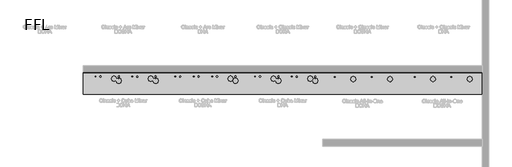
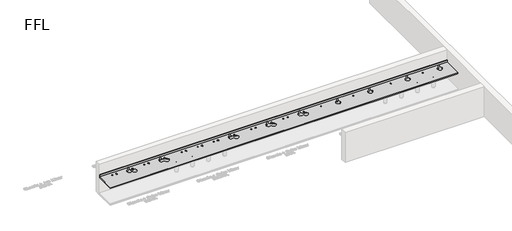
# One storey, part 2 of 13: 1 furniture element.
"""IFC4 building model written with IfcOpenShell, lengths in millimetres."""

from ifc_helpers import new_model, si_unit, frame, origin, place, context, project, spatial, polyline, circle_curve, element, save
from ifc_brep_helpers import plane_surface, revolved_surface, advanced_brep

model = new_model("IFC4")

# Units and contexts
model_context = context("Model", 3, world=origin())
ifc_project = project(units=[si_unit("LENGTHUNIT", "METRE", prefix="MILLI")], contexts=[model_context])

# Site, building, storey
site = spatial("IfcSite", under=ifc_project)
building = spatial("IfcBuilding", under=site)
storey = spatial("IfcBuildingStorey", under=building, Name="FFL", Elevation=0.0)

# Furniture
placement = place(None, origin())
element("IfcFurniture", 1, ObjectType="Counter Top : 900mm Depth", at=placement, inside=storey, context=model_context, shape_type="AdvancedBrep", body=[
    advanced_brep(
    [(-3719.7352929, 948.2393304, 900.0), (12530.2647071, 948.2393304, 900.0), (12530.2647071, 1829.1893304, 900.0), (-3719.7352929, 1829.1893304, 900.0), (3262.7647071, 1678.2393304, 900.0), (3297.7647071, 1678.2393304, 900.0), (4012.7647071, 1678.2393304, 900.0), (4047.7647071, 1678.2393304, 900.0), (4762.7647071, 1678.2393304, 900.0), (4797.7647071, 1678.2393304, 900.0), (5512.7647071, 1678.2393304, 900.0), (5547.7647071, 1678.2393304, 900.0), (4030.2647071, 1639.8212903, 900.0), (4030.2647071, 1503.4212903, 900.0), (5530.2647071, 1639.8212903, 900.0), (5530.2647071, 1503.4212903, 900.0), (-3237.2352929, 1678.2393304, 900.0), (-3202.2352929, 1678.2393304, 900.0), (-2487.2352929, 1678.2393304, 900.0), (-2452.2352929, 1678.2393304, 900.0), (-1737.2352929, 1678.2393304, 900.0), (-1702.2352929, 1678.2393304, 900.0), (-987.2352929, 1678.2393304, 900.0), (-952.2352929, 1678.2393304, 900.0), (-2469.7352929, 1639.8212903, 900.0), (-2469.7352929, 1503.4212903, 900.0), (-969.7352929, 1639.8212903, 900.0), (-969.7352929, 1503.4212903, 900.0), (-3043.7352929, 1678.2393304, 900.0), (-2995.7352929, 1678.2393304, 900.0), (-2293.7352929, 1678.2393304, 900.0), (-2245.7352929, 1678.2393304, 900.0), (-1543.7352929, 1678.2393304, 900.0), (-1495.7352929, 1678.2393304, 900.0), (-793.7352929, 1678.2393304, 900.0), (-745.7352929, 1678.2393304, 900.0), (3456.2647071, 1678.2393304, 900.0), (3504.2647071, 1678.2393304, 900.0), (4206.2647071, 1678.2393304, 900.0), (4254.2647071, 1678.2393304, 900.0), (4956.2647071, 1678.2393304, 900.0), (5004.2647071, 1678.2393304, 900.0), (5706.2647071, 1678.2393304, 900.0), (5754.2647071, 1678.2393304, 900.0), (4162.0647071, 1506.2393304, 900.0), (4298.4647071, 1506.2393304, 900.0), (5662.0647071, 1506.2393304, 900.0), (5798.4647071, 1506.2393304, 900.0), (12.7647071, 1678.2393304, 900.0), (47.7647071, 1678.2393304, 900.0), (206.2647071, 1678.2393304, 900.0), (254.2647071, 1678.2393304, 900.0), (762.7647071, 1678.2393304, 900.0), (797.7647071, 1678.2393304, 900.0), (956.2647071, 1678.2393304, 900.0), (1004.2647071, 1678.2393304, 900.0), (1512.7647071, 1678.2393304, 900.0), (1547.7647071, 1678.2393304, 900.0), (1706.2647071, 1678.2393304, 900.0), (1754.2647071, 1678.2393304, 900.0), (2280.2647071, 1639.8212903, 900.0), (2280.2647071, 1503.4212903, 900.0), (2262.7647071, 1678.2393304, 900.0), (2297.7647071, 1678.2393304, 900.0), (2456.2647071, 1678.2393304, 900.0), (2504.2647071, 1678.2393304, 900.0), (2412.0647071, 1506.2393304, 900.0), (2548.4647071, 1506.2393304, 900.0), (-2337.9352929, 1506.2393304, 900.0), (-2201.5352929, 1506.2393304, 900.0), (-837.9352929, 1506.2393304, 900.0), (-701.5352929, 1506.2393304, 900.0), (6512.7647071, 1659.1893304, 900.0), (6547.7647071, 1659.1893304, 900.0), (7280.2647071, 1620.7712903, 900.0), (7280.2647071, 1484.3712903, 900.0), (7262.7647071, 1659.1893304, 900.0), (7297.7647071, 1659.1893304, 900.0), (8012.7647071, 1659.1893304, 900.0), (8047.7647071, 1659.1893304, 900.0), (8780.2647071, 1620.7712903, 900.0), (8780.2647071, 1484.3712903, 900.0), (8762.7647071, 1659.1893304, 900.0), (8797.7647071, 1659.1893304, 900.0), (9762.7647071, 1659.1893304, 900.0), (9797.7647071, 1659.1893304, 900.0), (10530.2647071, 1620.7712903, 900.0), (10530.2647071, 1484.3712903, 900.0), (10512.7647071, 1659.1893304, 900.0), (10547.7647071, 1659.1893304, 900.0), (11262.7647071, 1659.1893304, 900.0), (11297.7647071, 1659.1893304, 900.0), (12030.2647071, 1620.7712903, 900.0), (12030.2647071, 1484.3712903, 900.0), (12012.7647071, 1659.1893304, 900.0), (12047.7647071, 1659.1893304, 900.0), (12530.2647071, 1848.2393304, 860.0), (12530.2647071, 948.2393304, 860.0), (-3719.7352929, 948.2393304, 860.0), (-3719.7352929, 1848.2393304, 860.0), (3297.7647071, 1678.2393304, 860.0), (3262.7647071, 1678.2393304, 860.0), (4047.7647071, 1678.2393304, 860.0), (4012.7647071, 1678.2393304, 860.0), (4797.7647071, 1678.2393304, 860.0), (4762.7647071, 1678.2393304, 860.0), (5547.7647071, 1678.2393304, 860.0), (5512.7647071, 1678.2393304, 860.0), (4030.2647071, 1503.4212903, 860.0), (4030.2647071, 1639.8212903, 860.0), (5530.2647071, 1503.4212903, 860.0), (5530.2647071, 1639.8212903, 860.0), (-3202.2352929, 1678.2393304, 860.0), (-3237.2352929, 1678.2393304, 860.0), (-2452.2352929, 1678.2393304, 860.0), (-2487.2352929, 1678.2393304, 860.0), (-1702.2352929, 1678.2393304, 860.0), (-1737.2352929, 1678.2393304, 860.0), (-952.2352929, 1678.2393304, 860.0), (-987.2352929, 1678.2393304, 860.0), (-2469.7352929, 1503.4212903, 860.0), (-2469.7352929, 1639.8212903, 860.0), (-969.7352929, 1503.4212903, 860.0), (-969.7352929, 1639.8212903, 860.0), (-2995.7352929, 1678.2393304, 860.0), (-3043.7352929, 1678.2393304, 860.0), (-2245.7352929, 1678.2393304, 860.0), (-2293.7352929, 1678.2393304, 860.0), (-1495.7352929, 1678.2393304, 860.0), (-1543.7352929, 1678.2393304, 860.0), (-745.7352929, 1678.2393304, 860.0), (-793.7352929, 1678.2393304, 860.0), (3504.2647071, 1678.2393304, 860.0), (3456.2647071, 1678.2393304, 860.0), (4254.2647071, 1678.2393304, 860.0), (4206.2647071, 1678.2393304, 860.0), (5004.2647071, 1678.2393304, 860.0), (4956.2647071, 1678.2393304, 860.0), (5754.2647071, 1678.2393304, 860.0), (5706.2647071, 1678.2393304, 860.0), (4298.4647071, 1506.2393304, 860.0), (4162.0647071, 1506.2393304, 860.0), (5798.4647071, 1506.2393304, 860.0), (5662.0647071, 1506.2393304, 860.0), (47.7647071, 1678.2393304, 860.0), (12.7647071, 1678.2393304, 860.0), (254.2647071, 1678.2393304, 860.0), (206.2647071, 1678.2393304, 860.0), (797.7647071, 1678.2393304, 860.0), (762.7647071, 1678.2393304, 860.0), (1004.2647071, 1678.2393304, 860.0), (956.2647071, 1678.2393304, 860.0), (1547.7647071, 1678.2393304, 860.0), (1512.7647071, 1678.2393304, 860.0), (1754.2647071, 1678.2393304, 860.0), (1706.2647071, 1678.2393304, 860.0), (2280.2647071, 1503.4212903, 860.0), (2280.2647071, 1639.8212903, 860.0), (2297.7647071, 1678.2393304, 860.0), (2262.7647071, 1678.2393304, 860.0), (2504.2647071, 1678.2393304, 860.0), (2456.2647071, 1678.2393304, 860.0), (2548.4647071, 1506.2393304, 860.0), (2412.0647071, 1506.2393304, 860.0), (-2201.5352929, 1506.2393304, 860.0), (-2337.9352929, 1506.2393304, 860.0), (-701.5352929, 1506.2393304, 860.0), (-837.9352929, 1506.2393304, 860.0), (6547.7647071, 1659.1893304, 860.0), (6512.7647071, 1659.1893304, 860.0), (7280.2647071, 1484.3712903, 860.0), (7280.2647071, 1620.7712903, 860.0), (7297.7647071, 1659.1893304, 860.0), (7262.7647071, 1659.1893304, 860.0), (8047.7647071, 1659.1893304, 860.0), (8012.7647071, 1659.1893304, 860.0), (8780.2647071, 1484.3712903, 860.0), (8780.2647071, 1620.7712903, 860.0), (8797.7647071, 1659.1893304, 860.0), (8762.7647071, 1659.1893304, 860.0), (9797.7647071, 1659.1893304, 860.0), (9762.7647071, 1659.1893304, 860.0), (10530.2647071, 1484.3712903, 860.0), (10530.2647071, 1620.7712903, 860.0), (10547.7647071, 1659.1893304, 860.0), (10512.7647071, 1659.1893304, 860.0), (11297.7647071, 1659.1893304, 860.0), (11262.7647071, 1659.1893304, 860.0), (12030.2647071, 1484.3712903, 860.0), (12030.2647071, 1620.7712903, 860.0), (12047.7647071, 1659.1893304, 860.0), (12012.7647071, 1659.1893304, 860.0), (-3719.7352929, 1848.2393304, 1001.6), (12530.2647071, 1848.2393304, 1001.6), (-3719.7352929, 1829.1893304, 1001.6), (12530.2647071, 1829.1893304, 1001.6)],
    [
        (0, 1),
        (1, 2),
        (2, 3),
        (3, 0),
        (4, 5, circle_curve(frame((3280.2647071, 1678.2393304, 900.0), z_axis=(0.0, 0.0, -1.0), x_axis=(-1.0, 0.0, 0.0)), 17.5)),
        (5, 4, circle_curve(frame((3280.2647071, 1678.2393304, 900.0), z_axis=(0.0, 0.0, -1.0), x_axis=(-1.0, 0.0, 0.0)), 17.5)),
        (6, 7, circle_curve(frame((4030.2647071, 1678.2393304, 900.0), z_axis=(0.0, 0.0, -1.0), x_axis=(-1.0, 0.0, 0.0)), 17.5)),
        (7, 6, circle_curve(frame((4030.2647071, 1678.2393304, 900.0), z_axis=(0.0, 0.0, -1.0), x_axis=(-1.0, 0.0, 0.0)), 17.5)),
        (8, 9, circle_curve(frame((4780.2647071, 1678.2393304, 900.0), z_axis=(0.0, 0.0, -1.0), x_axis=(-1.0, 0.0, 0.0)), 17.5)),
        (9, 8, circle_curve(frame((4780.2647071, 1678.2393304, 900.0), z_axis=(0.0, 0.0, -1.0), x_axis=(-1.0, 0.0, 0.0)), 17.5)),
        (10, 11, circle_curve(frame((5530.2647071, 1678.2393304, 900.0), z_axis=(0.0, 0.0, -1.0), x_axis=(-1.0, 0.0, 0.0)), 17.5)),
        (11, 10, circle_curve(frame((5530.2647071, 1678.2393304, 900.0), z_axis=(0.0, 0.0, -1.0), x_axis=(-1.0, 0.0, 0.0)), 17.5)),
        (12, 13, circle_curve(frame((4030.2647071, 1571.6212903, 900.0), z_axis=(0.0, 0.0, -1.0), x_axis=(0.0, -1.0, 0.0)), 68.2)),
        (13, 12, circle_curve(frame((4030.2647071, 1571.6212903, 900.0), z_axis=(0.0, 0.0, -1.0), x_axis=(0.0, -1.0, 0.0)), 68.2)),
        (14, 15, circle_curve(frame((5530.2647071, 1571.6212903, 900.0), z_axis=(0.0, 0.0, -1.0), x_axis=(0.0, -1.0, 0.0)), 68.2)),
        (15, 14, circle_curve(frame((5530.2647071, 1571.6212903, 900.0), z_axis=(0.0, 0.0, -1.0), x_axis=(0.0, -1.0, 0.0)), 68.2)),
        (16, 17, circle_curve(frame((-3219.7352929, 1678.2393304, 900.0), z_axis=(0.0, 0.0, -1.0), x_axis=(-1.0, 0.0, 0.0)), 17.5)),
        (17, 16, circle_curve(frame((-3219.7352929, 1678.2393304, 900.0), z_axis=(0.0, 0.0, -1.0), x_axis=(-1.0, 0.0, 0.0)), 17.5)),
        (18, 19, circle_curve(frame((-2469.7352929, 1678.2393304, 900.0), z_axis=(0.0, 0.0, -1.0), x_axis=(-1.0, 0.0, 0.0)), 17.5)),
        (19, 18, circle_curve(frame((-2469.7352929, 1678.2393304, 900.0), z_axis=(0.0, 0.0, -1.0), x_axis=(-1.0, 0.0, 0.0)), 17.5)),
        (20, 21, circle_curve(frame((-1719.7352929, 1678.2393304, 900.0), z_axis=(0.0, 0.0, -1.0), x_axis=(-1.0, 0.0, 0.0)), 17.5)),
        (21, 20, circle_curve(frame((-1719.7352929, 1678.2393304, 900.0), z_axis=(0.0, 0.0, -1.0), x_axis=(-1.0, 0.0, 0.0)), 17.5)),
        (22, 23, circle_curve(frame((-969.7352929, 1678.2393304, 900.0), z_axis=(0.0, 0.0, -1.0), x_axis=(-1.0, 0.0, 0.0)), 17.5)),
        (23, 22, circle_curve(frame((-969.7352929, 1678.2393304, 900.0), z_axis=(0.0, 0.0, -1.0), x_axis=(-1.0, 0.0, 0.0)), 17.5)),
        (24, 25, circle_curve(frame((-2469.7352929, 1571.6212903, 900.0), z_axis=(0.0, 0.0, -1.0), x_axis=(0.0, -1.0, 0.0)), 68.2)),
        (25, 24, circle_curve(frame((-2469.7352929, 1571.6212903, 900.0), z_axis=(0.0, 0.0, -1.0), x_axis=(0.0, -1.0, 0.0)), 68.2)),
        (26, 27, circle_curve(frame((-969.7352929, 1571.6212903, 900.0), z_axis=(0.0, 0.0, -1.0), x_axis=(0.0, -1.0, 0.0)), 68.2)),
        (27, 26, circle_curve(frame((-969.7352929, 1571.6212903, 900.0), z_axis=(0.0, 0.0, -1.0), x_axis=(0.0, -1.0, 0.0)), 68.2)),
        (28, 29, circle_curve(frame((-3019.7352929, 1678.2393304, 900.0), z_axis=(0.0, 0.0, -1.0), x_axis=(-1.0, 0.0, 0.0)), 24.0)),
        (29, 28, circle_curve(frame((-3019.7352929, 1678.2393304, 900.0), z_axis=(0.0, 0.0, -1.0), x_axis=(-1.0, 0.0, 0.0)), 24.0)),
        (30, 31, circle_curve(frame((-2269.7352929, 1678.2393304, 900.0), z_axis=(0.0, 0.0, -1.0), x_axis=(-1.0, 0.0, 0.0)), 24.0)),
        (31, 30, circle_curve(frame((-2269.7352929, 1678.2393304, 900.0), z_axis=(0.0, 0.0, -1.0), x_axis=(-1.0, 0.0, 0.0)), 24.0)),
        (32, 33, circle_curve(frame((-1519.7352929, 1678.2393304, 900.0), z_axis=(0.0, 0.0, -1.0), x_axis=(-1.0, 0.0, 0.0)), 24.0)),
        (33, 32, circle_curve(frame((-1519.7352929, 1678.2393304, 900.0), z_axis=(0.0, 0.0, -1.0), x_axis=(-1.0, 0.0, 0.0)), 24.0)),
        (34, 35, circle_curve(frame((-769.7352929, 1678.2393304, 900.0), z_axis=(0.0, 0.0, -1.0), x_axis=(-1.0, 0.0, 0.0)), 24.0)),
        (35, 34, circle_curve(frame((-769.7352929, 1678.2393304, 900.0), z_axis=(0.0, 0.0, -1.0), x_axis=(-1.0, 0.0, 0.0)), 24.0)),
        (36, 37, circle_curve(frame((3480.2647071, 1678.2393304, 900.0), z_axis=(0.0, 0.0, -1.0), x_axis=(-1.0000000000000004, 0.0, 0.0)), 24.0)),
        (37, 36, circle_curve(frame((3480.2647071, 1678.2393304, 900.0), z_axis=(0.0, 0.0, -1.0), x_axis=(-1.0000000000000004, 0.0, 0.0)), 24.0)),
        (38, 39, circle_curve(frame((4230.2647071, 1678.2393304, 900.0), z_axis=(0.0, 0.0, -1.0), x_axis=(-1.0000000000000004, 0.0, 0.0)), 24.0)),
        (39, 38, circle_curve(frame((4230.2647071, 1678.2393304, 900.0), z_axis=(0.0, 0.0, -1.0), x_axis=(-1.0000000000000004, 0.0, 0.0)), 24.0)),
        (40, 41, circle_curve(frame((4980.2647071, 1678.2393304, 900.0), z_axis=(0.0, 0.0, -1.0), x_axis=(-1.0000000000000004, 0.0, 0.0)), 24.0)),
        (41, 40, circle_curve(frame((4980.2647071, 1678.2393304, 900.0), z_axis=(0.0, 0.0, -1.0), x_axis=(-1.0000000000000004, 0.0, 0.0)), 24.0)),
        (42, 43, circle_curve(frame((5730.2647071, 1678.2393304, 900.0), z_axis=(0.0, 0.0, -1.0), x_axis=(-1.0000000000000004, 0.0, 0.0)), 24.0)),
        (43, 42, circle_curve(frame((5730.2647071, 1678.2393304, 900.0), z_axis=(0.0, 0.0, -1.0), x_axis=(-1.0000000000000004, 0.0, 0.0)), 24.0)),
        (44, 45, circle_curve(frame((4230.2647071, 1506.2393304, 900.0), z_axis=(0.0, 0.0, -1.0), x_axis=(-1.0000000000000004, 0.0, 0.0)), 68.2)),
        (45, 44, circle_curve(frame((4230.2647071, 1506.2393304, 900.0), z_axis=(0.0, 0.0, -1.0), x_axis=(-1.0000000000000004, 0.0, 0.0)), 68.2)),
        (46, 47, circle_curve(frame((5730.2647071, 1506.2393304, 900.0), z_axis=(0.0, 0.0, -1.0), x_axis=(-1.0000000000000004, 0.0, 0.0)), 68.2)),
        (47, 46, circle_curve(frame((5730.2647071, 1506.2393304, 900.0), z_axis=(0.0, 0.0, -1.0), x_axis=(-1.0000000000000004, 0.0, 0.0)), 68.2)),
        (48, 49, circle_curve(frame((30.2647071, 1678.2393304, 900.0), z_axis=(0.0, 0.0, -1.0), x_axis=(-1.0, 0.0, 0.0)), 17.5)),
        (49, 48, circle_curve(frame((30.2647071, 1678.2393304, 900.0), z_axis=(0.0, 0.0, -1.0), x_axis=(-1.0, 0.0, 0.0)), 17.5)),
        (50, 51, circle_curve(frame((230.2647071, 1678.2393304, 900.0), z_axis=(0.0, 0.0, -1.0), x_axis=(-1.0000000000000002, 0.0, 0.0)), 24.0)),
        (51, 50, circle_curve(frame((230.2647071, 1678.2393304, 900.0), z_axis=(0.0, 0.0, -1.0), x_axis=(-1.0000000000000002, 0.0, 0.0)), 24.0)),
        (52, 53, circle_curve(frame((780.2647071, 1678.2393304, 900.0), z_axis=(0.0, 0.0, -1.0), x_axis=(-1.0, 0.0, 0.0)), 17.5)),
        (53, 52, circle_curve(frame((780.2647071, 1678.2393304, 900.0), z_axis=(0.0, 0.0, -1.0), x_axis=(-1.0, 0.0, 0.0)), 17.5)),
        (54, 55, circle_curve(frame((980.2647071, 1678.2393304, 900.0), z_axis=(0.0, 0.0, -1.0), x_axis=(-1.0000000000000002, 0.0, 0.0)), 24.0)),
        (55, 54, circle_curve(frame((980.2647071, 1678.2393304, 900.0), z_axis=(0.0, 0.0, -1.0), x_axis=(-1.0000000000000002, 0.0, 0.0)), 24.0)),
        (56, 57, circle_curve(frame((1530.2647071, 1678.2393304, 900.0), z_axis=(0.0, 0.0, -1.0), x_axis=(-1.0, 0.0, 0.0)), 17.5)),
        (57, 56, circle_curve(frame((1530.2647071, 1678.2393304, 900.0), z_axis=(0.0, 0.0, -1.0), x_axis=(-1.0, 0.0, 0.0)), 17.5)),
        (58, 59, circle_curve(frame((1730.2647071, 1678.2393304, 900.0), z_axis=(0.0, 0.0, -1.0), x_axis=(-1.0000000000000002, 0.0, 0.0)), 24.0)),
        (59, 58, circle_curve(frame((1730.2647071, 1678.2393304, 900.0), z_axis=(0.0, 0.0, -1.0), x_axis=(-1.0000000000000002, 0.0, 0.0)), 24.0)),
        (60, 61, circle_curve(frame((2280.2647071, 1571.6212903, 900.0), z_axis=(0.0, 0.0, -1.0), x_axis=(0.0, -1.0, 0.0)), 68.2)),
        (61, 60, circle_curve(frame((2280.2647071, 1571.6212903, 900.0), z_axis=(0.0, 0.0, -1.0), x_axis=(0.0, -1.0, 0.0)), 68.2)),
        (62, 63, circle_curve(frame((2280.2647071, 1678.2393304, 900.0), z_axis=(0.0, 0.0, -1.0), x_axis=(-1.0, 0.0, 0.0)), 17.5)),
        (63, 62, circle_curve(frame((2280.2647071, 1678.2393304, 900.0), z_axis=(0.0, 0.0, -1.0), x_axis=(-1.0, 0.0, 0.0)), 17.5)),
        (64, 65, circle_curve(frame((2480.2647071, 1678.2393304, 900.0), z_axis=(0.0, 0.0, -1.0), x_axis=(-1.0000000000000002, 0.0, 0.0)), 24.0)),
        (65, 64, circle_curve(frame((2480.2647071, 1678.2393304, 900.0), z_axis=(0.0, 0.0, -1.0), x_axis=(-1.0000000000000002, 0.0, 0.0)), 24.0)),
        (66, 67, circle_curve(frame((2480.2647071, 1506.2393304, 900.0), z_axis=(0.0, 0.0, -1.0), x_axis=(-1.0000000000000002, 0.0, 0.0)), 68.2)),
        (67, 66, circle_curve(frame((2480.2647071, 1506.2393304, 900.0), z_axis=(0.0, 0.0, -1.0), x_axis=(-1.0000000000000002, 0.0, 0.0)), 68.2)),
        (68, 69, circle_curve(frame((-2269.7352929, 1506.2393304, 900.0), z_axis=(0.0, 0.0, -1.0), x_axis=(-1.0, 0.0, 0.0)), 68.2)),
        (69, 68, circle_curve(frame((-2269.7352929, 1506.2393304, 900.0), z_axis=(0.0, 0.0, -1.0), x_axis=(-1.0, 0.0, 0.0)), 68.2)),
        (70, 71, circle_curve(frame((-769.7352929, 1506.2393304, 900.0), z_axis=(0.0, 0.0, -1.0), x_axis=(-1.0, 0.0, 0.0)), 68.2)),
        (71, 70, circle_curve(frame((-769.7352929, 1506.2393304, 900.0), z_axis=(0.0, 0.0, -1.0), x_axis=(-1.0, 0.0, 0.0)), 68.2)),
        (72, 73, circle_curve(frame((6530.2647071, 1659.1893304, 900.0), z_axis=(0.0, 0.0, -1.0), x_axis=(-1.0, 0.0, 0.0)), 17.5)),
        (73, 72, circle_curve(frame((6530.2647071, 1659.1893304, 900.0), z_axis=(0.0, 0.0, -1.0), x_axis=(-1.0, 0.0, 0.0)), 17.5)),
        (74, 75, circle_curve(frame((7280.2647071, 1552.5712903, 900.0), z_axis=(0.0, 0.0, -1.0), x_axis=(0.0, -1.0, 0.0)), 68.2)),
        (75, 74, circle_curve(frame((7280.2647071, 1552.5712903, 900.0), z_axis=(0.0, 0.0, -1.0), x_axis=(0.0, -1.0, 0.0)), 68.2)),
        (76, 77, circle_curve(frame((7280.2647071, 1659.1893304, 900.0), z_axis=(0.0, 0.0, -1.0), x_axis=(-1.0, 0.0, 0.0)), 17.5)),
        (77, 76, circle_curve(frame((7280.2647071, 1659.1893304, 900.0), z_axis=(0.0, 0.0, -1.0), x_axis=(-1.0, 0.0, 0.0)), 17.5)),
        (78, 79, circle_curve(frame((8030.2647071, 1659.1893304, 900.0), z_axis=(0.0, 0.0, -1.0), x_axis=(-1.0, 0.0, 0.0)), 17.5)),
        (79, 78, circle_curve(frame((8030.2647071, 1659.1893304, 900.0), z_axis=(0.0, 0.0, -1.0), x_axis=(-1.0, 0.0, 0.0)), 17.5)),
        (80, 81, circle_curve(frame((8780.2647071, 1552.5712903, 900.0), z_axis=(0.0, 0.0, -1.0), x_axis=(0.0, -1.0, 0.0)), 68.2)),
        (81, 80, circle_curve(frame((8780.2647071, 1552.5712903, 900.0), z_axis=(0.0, 0.0, -1.0), x_axis=(0.0, -1.0, 0.0)), 68.2)),
        (82, 83, circle_curve(frame((8780.2647071, 1659.1893304, 900.0), z_axis=(0.0, 0.0, -1.0), x_axis=(-1.0, 0.0, 0.0)), 17.5)),
        (83, 82, circle_curve(frame((8780.2647071, 1659.1893304, 900.0), z_axis=(0.0, 0.0, -1.0), x_axis=(-1.0, 0.0, 0.0)), 17.5)),
        (84, 85, circle_curve(frame((9780.2647071, 1659.1893304, 900.0), z_axis=(0.0, 0.0, -1.0), x_axis=(-1.0, 0.0, 0.0)), 17.5)),
        (85, 84, circle_curve(frame((9780.2647071, 1659.1893304, 900.0), z_axis=(0.0, 0.0, -1.0), x_axis=(-1.0, 0.0, 0.0)), 17.5)),
        (86, 87, circle_curve(frame((10530.2647071, 1552.5712903, 900.0), z_axis=(0.0, 0.0, -1.0), x_axis=(0.0, -1.0, 0.0)), 68.2)),
        (87, 86, circle_curve(frame((10530.2647071, 1552.5712903, 900.0), z_axis=(0.0, 0.0, -1.0), x_axis=(0.0, -1.0, 0.0)), 68.2)),
        (88, 89, circle_curve(frame((10530.2647071, 1659.1893304, 900.0), z_axis=(0.0, 0.0, -1.0), x_axis=(-1.0, 0.0, 0.0)), 17.5)),
        (89, 88, circle_curve(frame((10530.2647071, 1659.1893304, 900.0), z_axis=(0.0, 0.0, -1.0), x_axis=(-1.0, 0.0, 0.0)), 17.5)),
        (90, 91, circle_curve(frame((11280.2647071, 1659.1893304, 900.0), z_axis=(0.0, 0.0, -1.0), x_axis=(-1.0, 0.0, 0.0)), 17.5)),
        (91, 90, circle_curve(frame((11280.2647071, 1659.1893304, 900.0), z_axis=(0.0, 0.0, -1.0), x_axis=(-1.0, 0.0, 0.0)), 17.5)),
        (92, 93, circle_curve(frame((12030.2647071, 1552.5712903, 900.0), z_axis=(0.0, 0.0, -1.0), x_axis=(0.0, -1.0, 0.0)), 68.2)),
        (93, 92, circle_curve(frame((12030.2647071, 1552.5712903, 900.0), z_axis=(0.0, 0.0, -1.0), x_axis=(0.0, -1.0, 0.0)), 68.2)),
        (94, 95, circle_curve(frame((12030.2647071, 1659.1893304, 900.0), z_axis=(0.0, 0.0, -1.0), x_axis=(-1.0, 0.0, 0.0)), 17.5)),
        (95, 94, circle_curve(frame((12030.2647071, 1659.1893304, 900.0), z_axis=(0.0, 0.0, -1.0), x_axis=(-1.0, 0.0, 0.0)), 17.5)),
        (96, 97),
        (97, 98),
        (98, 99),
        (99, 96),
        (100, 101, circle_curve(frame((3280.2647071, 1678.2393304, 860.0), z_axis=(0.0, 0.0, 1.0), x_axis=(-1.0, 0.0, 0.0)), 17.5)),
        (101, 100, circle_curve(frame((3280.2647071, 1678.2393304, 860.0), z_axis=(0.0, 0.0, 1.0), x_axis=(-1.0, 0.0, 0.0)), 17.5)),
        (102, 103, circle_curve(frame((4030.2647071, 1678.2393304, 860.0), z_axis=(0.0, 0.0, 1.0), x_axis=(-1.0, 0.0, 0.0)), 17.5)),
        (103, 102, circle_curve(frame((4030.2647071, 1678.2393304, 860.0), z_axis=(0.0, 0.0, 1.0), x_axis=(-1.0, 0.0, 0.0)), 17.5)),
        (104, 105, circle_curve(frame((4780.2647071, 1678.2393304, 860.0), z_axis=(0.0, 0.0, 1.0), x_axis=(-1.0, 0.0, 0.0)), 17.5)),
        (105, 104, circle_curve(frame((4780.2647071, 1678.2393304, 860.0), z_axis=(0.0, 0.0, 1.0), x_axis=(-1.0, 0.0, 0.0)), 17.5)),
        (106, 107, circle_curve(frame((5530.2647071, 1678.2393304, 860.0), z_axis=(0.0, 0.0, 1.0), x_axis=(-1.0, 0.0, 0.0)), 17.5)),
        (107, 106, circle_curve(frame((5530.2647071, 1678.2393304, 860.0), z_axis=(0.0, 0.0, 1.0), x_axis=(-1.0, 0.0, 0.0)), 17.5)),
        (108, 109, circle_curve(frame((4030.2647071, 1571.6212903, 860.0), z_axis=(0.0, 0.0, 1.0), x_axis=(0.0, -1.0, 0.0)), 68.2)),
        (109, 108, circle_curve(frame((4030.2647071, 1571.6212903, 860.0), z_axis=(0.0, 0.0, 1.0), x_axis=(0.0, -1.0, 0.0)), 68.2)),
        (110, 111, circle_curve(frame((5530.2647071, 1571.6212903, 860.0), z_axis=(0.0, 0.0, 1.0), x_axis=(0.0, -1.0, 0.0)), 68.2)),
        (111, 110, circle_curve(frame((5530.2647071, 1571.6212903, 860.0), z_axis=(0.0, 0.0, 1.0), x_axis=(0.0, -1.0, 0.0)), 68.2)),
        (112, 113, circle_curve(frame((-3219.7352929, 1678.2393304, 860.0), z_axis=(0.0, 0.0, 1.0), x_axis=(-1.0, 0.0, 0.0)), 17.5)),
        (113, 112, circle_curve(frame((-3219.7352929, 1678.2393304, 860.0), z_axis=(0.0, 0.0, 1.0), x_axis=(-1.0, 0.0, 0.0)), 17.5)),
        (114, 115, circle_curve(frame((-2469.7352929, 1678.2393304, 860.0), z_axis=(0.0, 0.0, 1.0), x_axis=(-1.0, 0.0, 0.0)), 17.5)),
        (115, 114, circle_curve(frame((-2469.7352929, 1678.2393304, 860.0), z_axis=(0.0, 0.0, 1.0), x_axis=(-1.0, 0.0, 0.0)), 17.5)),
        (116, 117, circle_curve(frame((-1719.7352929, 1678.2393304, 860.0), z_axis=(0.0, 0.0, 1.0), x_axis=(-1.0, 0.0, 0.0)), 17.5)),
        (117, 116, circle_curve(frame((-1719.7352929, 1678.2393304, 860.0), z_axis=(0.0, 0.0, 1.0), x_axis=(-1.0, 0.0, 0.0)), 17.5)),
        (118, 119, circle_curve(frame((-969.7352929, 1678.2393304, 860.0), z_axis=(0.0, 0.0, 1.0), x_axis=(-1.0, 0.0, 0.0)), 17.5)),
        (119, 118, circle_curve(frame((-969.7352929, 1678.2393304, 860.0), z_axis=(0.0, 0.0, 1.0), x_axis=(-1.0, 0.0, 0.0)), 17.5)),
        (120, 121, circle_curve(frame((-2469.7352929, 1571.6212903, 860.0), z_axis=(0.0, 0.0, 1.0), x_axis=(0.0, -1.0, 0.0)), 68.2)),
        (121, 120, circle_curve(frame((-2469.7352929, 1571.6212903, 860.0), z_axis=(0.0, 0.0, 1.0), x_axis=(0.0, -1.0, 0.0)), 68.2)),
        (122, 123, circle_curve(frame((-969.7352929, 1571.6212903, 860.0), z_axis=(0.0, 0.0, 1.0), x_axis=(0.0, -1.0, 0.0)), 68.2)),
        (123, 122, circle_curve(frame((-969.7352929, 1571.6212903, 860.0), z_axis=(0.0, 0.0, 1.0), x_axis=(0.0, -1.0, 0.0)), 68.2)),
        (124, 125, circle_curve(frame((-3019.7352929, 1678.2393304, 860.0), z_axis=(0.0, 0.0, 1.0), x_axis=(-1.0, 0.0, 0.0)), 24.0)),
        (125, 124, circle_curve(frame((-3019.7352929, 1678.2393304, 860.0), z_axis=(0.0, 0.0, 1.0), x_axis=(-1.0, 0.0, 0.0)), 24.0)),
        (126, 127, circle_curve(frame((-2269.7352929, 1678.2393304, 860.0), z_axis=(0.0, 0.0, 1.0), x_axis=(-1.0, 0.0, 0.0)), 24.0)),
        (127, 126, circle_curve(frame((-2269.7352929, 1678.2393304, 860.0), z_axis=(0.0, 0.0, 1.0), x_axis=(-1.0, 0.0, 0.0)), 24.0)),
        (128, 129, circle_curve(frame((-1519.7352929, 1678.2393304, 860.0), z_axis=(0.0, 0.0, 1.0), x_axis=(-1.0, 0.0, 0.0)), 24.0)),
        (129, 128, circle_curve(frame((-1519.7352929, 1678.2393304, 860.0), z_axis=(0.0, 0.0, 1.0), x_axis=(-1.0, 0.0, 0.0)), 24.0)),
        (130, 131, circle_curve(frame((-769.7352929, 1678.2393304, 860.0), z_axis=(0.0, 0.0, 1.0), x_axis=(-1.0, 0.0, 0.0)), 24.0)),
        (131, 130, circle_curve(frame((-769.7352929, 1678.2393304, 860.0), z_axis=(0.0, 0.0, 1.0), x_axis=(-1.0, 0.0, 0.0)), 24.0)),
        (132, 133, circle_curve(frame((3480.2647071, 1678.2393304, 860.0), z_axis=(0.0, 0.0, 1.0), x_axis=(-1.0000000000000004, 0.0, 0.0)), 24.0)),
        (133, 132, circle_curve(frame((3480.2647071, 1678.2393304, 860.0), z_axis=(0.0, 0.0, 1.0), x_axis=(-1.0000000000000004, 0.0, 0.0)), 24.0)),
        (134, 135, circle_curve(frame((4230.2647071, 1678.2393304, 860.0), z_axis=(0.0, 0.0, 1.0), x_axis=(-1.0000000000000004, 0.0, 0.0)), 24.0)),
        (135, 134, circle_curve(frame((4230.2647071, 1678.2393304, 860.0), z_axis=(0.0, 0.0, 1.0), x_axis=(-1.0000000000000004, 0.0, 0.0)), 24.0)),
        (136, 137, circle_curve(frame((4980.2647071, 1678.2393304, 860.0), z_axis=(0.0, 0.0, 1.0), x_axis=(-1.0000000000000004, 0.0, 0.0)), 24.0)),
        (137, 136, circle_curve(frame((4980.2647071, 1678.2393304, 860.0), z_axis=(0.0, 0.0, 1.0), x_axis=(-1.0000000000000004, 0.0, 0.0)), 24.0)),
        (138, 139, circle_curve(frame((5730.2647071, 1678.2393304, 860.0), z_axis=(0.0, 0.0, 1.0), x_axis=(-1.0000000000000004, 0.0, 0.0)), 24.0)),
        (139, 138, circle_curve(frame((5730.2647071, 1678.2393304, 860.0), z_axis=(0.0, 0.0, 1.0), x_axis=(-1.0000000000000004, 0.0, 0.0)), 24.0)),
        (140, 141, circle_curve(frame((4230.2647071, 1506.2393304, 860.0), z_axis=(0.0, 0.0, 1.0), x_axis=(-1.0000000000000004, 0.0, 0.0)), 68.2)),
        (141, 140, circle_curve(frame((4230.2647071, 1506.2393304, 860.0), z_axis=(0.0, 0.0, 1.0), x_axis=(-1.0000000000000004, 0.0, 0.0)), 68.2)),
        (142, 143, circle_curve(frame((5730.2647071, 1506.2393304, 860.0), z_axis=(0.0, 0.0, 1.0), x_axis=(-1.0000000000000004, 0.0, 0.0)), 68.2)),
        (143, 142, circle_curve(frame((5730.2647071, 1506.2393304, 860.0), z_axis=(0.0, 0.0, 1.0), x_axis=(-1.0000000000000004, 0.0, 0.0)), 68.2)),
        (144, 145, circle_curve(frame((30.2647071, 1678.2393304, 860.0), z_axis=(0.0, 0.0, 1.0), x_axis=(-1.0, 0.0, 0.0)), 17.5)),
        (145, 144, circle_curve(frame((30.2647071, 1678.2393304, 860.0), z_axis=(0.0, 0.0, 1.0), x_axis=(-1.0, 0.0, 0.0)), 17.5)),
        (146, 147, circle_curve(frame((230.2647071, 1678.2393304, 860.0), z_axis=(0.0, 0.0, 1.0), x_axis=(-1.0000000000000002, 0.0, 0.0)), 24.0)),
        (147, 146, circle_curve(frame((230.2647071, 1678.2393304, 860.0), z_axis=(0.0, 0.0, 1.0), x_axis=(-1.0000000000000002, 0.0, 0.0)), 24.0)),
        (148, 149, circle_curve(frame((780.2647071, 1678.2393304, 860.0), z_axis=(0.0, 0.0, 1.0), x_axis=(-1.0, 0.0, 0.0)), 17.5)),
        (149, 148, circle_curve(frame((780.2647071, 1678.2393304, 860.0), z_axis=(0.0, 0.0, 1.0), x_axis=(-1.0, 0.0, 0.0)), 17.5)),
        (150, 151, circle_curve(frame((980.2647071, 1678.2393304, 860.0), z_axis=(0.0, 0.0, 1.0), x_axis=(-1.0000000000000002, 0.0, 0.0)), 24.0)),
        (151, 150, circle_curve(frame((980.2647071, 1678.2393304, 860.0), z_axis=(0.0, 0.0, 1.0), x_axis=(-1.0000000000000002, 0.0, 0.0)), 24.0)),
        (152, 153, circle_curve(frame((1530.2647071, 1678.2393304, 860.0), z_axis=(0.0, 0.0, 1.0), x_axis=(-1.0, 0.0, 0.0)), 17.5)),
        (153, 152, circle_curve(frame((1530.2647071, 1678.2393304, 860.0), z_axis=(0.0, 0.0, 1.0), x_axis=(-1.0, 0.0, 0.0)), 17.5)),
        (154, 155, circle_curve(frame((1730.2647071, 1678.2393304, 860.0), z_axis=(0.0, 0.0, 1.0), x_axis=(-1.0000000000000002, 0.0, 0.0)), 24.0)),
        (155, 154, circle_curve(frame((1730.2647071, 1678.2393304, 860.0), z_axis=(0.0, 0.0, 1.0), x_axis=(-1.0000000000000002, 0.0, 0.0)), 24.0)),
        (156, 157, circle_curve(frame((2280.2647071, 1571.6212903, 860.0), z_axis=(0.0, 0.0, 1.0), x_axis=(0.0, -1.0, 0.0)), 68.2)),
        (157, 156, circle_curve(frame((2280.2647071, 1571.6212903, 860.0), z_axis=(0.0, 0.0, 1.0), x_axis=(0.0, -1.0, 0.0)), 68.2)),
        (158, 159, circle_curve(frame((2280.2647071, 1678.2393304, 860.0), z_axis=(0.0, 0.0, 1.0), x_axis=(-1.0, 0.0, 0.0)), 17.5)),
        (159, 158, circle_curve(frame((2280.2647071, 1678.2393304, 860.0), z_axis=(0.0, 0.0, 1.0), x_axis=(-1.0, 0.0, 0.0)), 17.5)),
        (160, 161, circle_curve(frame((2480.2647071, 1678.2393304, 860.0), z_axis=(0.0, 0.0, 1.0), x_axis=(-1.0000000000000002, 0.0, 0.0)), 24.0)),
        (161, 160, circle_curve(frame((2480.2647071, 1678.2393304, 860.0), z_axis=(0.0, 0.0, 1.0), x_axis=(-1.0000000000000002, 0.0, 0.0)), 24.0)),
        (162, 163, circle_curve(frame((2480.2647071, 1506.2393304, 860.0), z_axis=(0.0, 0.0, 1.0), x_axis=(-1.0000000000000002, 0.0, 0.0)), 68.2)),
        (163, 162, circle_curve(frame((2480.2647071, 1506.2393304, 860.0), z_axis=(0.0, 0.0, 1.0), x_axis=(-1.0000000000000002, 0.0, 0.0)), 68.2)),
        (164, 165, circle_curve(frame((-2269.7352929, 1506.2393304, 860.0), z_axis=(0.0, 0.0, 1.0), x_axis=(-1.0, 0.0, 0.0)), 68.2)),
        (165, 164, circle_curve(frame((-2269.7352929, 1506.2393304, 860.0), z_axis=(0.0, 0.0, 1.0), x_axis=(-1.0, 0.0, 0.0)), 68.2)),
        (166, 167, circle_curve(frame((-769.7352929, 1506.2393304, 860.0), z_axis=(0.0, 0.0, 1.0), x_axis=(-1.0, 0.0, 0.0)), 68.2)),
        (167, 166, circle_curve(frame((-769.7352929, 1506.2393304, 860.0), z_axis=(0.0, 0.0, 1.0), x_axis=(-1.0, 0.0, 0.0)), 68.2)),
        (168, 169, circle_curve(frame((6530.2647071, 1659.1893304, 860.0), z_axis=(0.0, 0.0, 1.0), x_axis=(-1.0, 0.0, 0.0)), 17.5)),
        (169, 168, circle_curve(frame((6530.2647071, 1659.1893304, 860.0), z_axis=(0.0, 0.0, 1.0), x_axis=(-1.0, 0.0, 0.0)), 17.5)),
        (170, 171, circle_curve(frame((7280.2647071, 1552.5712903, 860.0), z_axis=(0.0, 0.0, 1.0), x_axis=(0.0, -1.0, 0.0)), 68.2)),
        (171, 170, circle_curve(frame((7280.2647071, 1552.5712903, 860.0), z_axis=(0.0, 0.0, 1.0), x_axis=(0.0, -1.0, 0.0)), 68.2)),
        (172, 173, circle_curve(frame((7280.2647071, 1659.1893304, 860.0), z_axis=(0.0, 0.0, 1.0), x_axis=(-1.0, 0.0, 0.0)), 17.5)),
        (173, 172, circle_curve(frame((7280.2647071, 1659.1893304, 860.0), z_axis=(0.0, 0.0, 1.0), x_axis=(-1.0, 0.0, 0.0)), 17.5)),
        (174, 175, circle_curve(frame((8030.2647071, 1659.1893304, 860.0), z_axis=(0.0, 0.0, 1.0), x_axis=(-1.0, 0.0, 0.0)), 17.5)),
        (175, 174, circle_curve(frame((8030.2647071, 1659.1893304, 860.0), z_axis=(0.0, 0.0, 1.0), x_axis=(-1.0, 0.0, 0.0)), 17.5)),
        (176, 177, circle_curve(frame((8780.2647071, 1552.5712903, 860.0), z_axis=(0.0, 0.0, 1.0), x_axis=(0.0, -1.0, 0.0)), 68.2)),
        (177, 176, circle_curve(frame((8780.2647071, 1552.5712903, 860.0), z_axis=(0.0, 0.0, 1.0), x_axis=(0.0, -1.0, 0.0)), 68.2)),
        (178, 179, circle_curve(frame((8780.2647071, 1659.1893304, 860.0), z_axis=(0.0, 0.0, 1.0), x_axis=(-1.0, 0.0, 0.0)), 17.5)),
        (179, 178, circle_curve(frame((8780.2647071, 1659.1893304, 860.0), z_axis=(0.0, 0.0, 1.0), x_axis=(-1.0, 0.0, 0.0)), 17.5)),
        (180, 181, circle_curve(frame((9780.2647071, 1659.1893304, 860.0), z_axis=(0.0, 0.0, 1.0), x_axis=(-1.0, 0.0, 0.0)), 17.5)),
        (181, 180, circle_curve(frame((9780.2647071, 1659.1893304, 860.0), z_axis=(0.0, 0.0, 1.0), x_axis=(-1.0, 0.0, 0.0)), 17.5)),
        (182, 183, circle_curve(frame((10530.2647071, 1552.5712903, 860.0), z_axis=(0.0, 0.0, 1.0), x_axis=(0.0, -1.0, 0.0)), 68.2)),
        (183, 182, circle_curve(frame((10530.2647071, 1552.5712903, 860.0), z_axis=(0.0, 0.0, 1.0), x_axis=(0.0, -1.0, 0.0)), 68.2)),
        (184, 185, circle_curve(frame((10530.2647071, 1659.1893304, 860.0), z_axis=(0.0, 0.0, 1.0), x_axis=(-1.0, 0.0, 0.0)), 17.5)),
        (185, 184, circle_curve(frame((10530.2647071, 1659.1893304, 860.0), z_axis=(0.0, 0.0, 1.0), x_axis=(-1.0, 0.0, 0.0)), 17.5)),
        (186, 187, circle_curve(frame((11280.2647071, 1659.1893304, 860.0), z_axis=(0.0, 0.0, 1.0), x_axis=(-1.0, 0.0, 0.0)), 17.5)),
        (187, 186, circle_curve(frame((11280.2647071, 1659.1893304, 860.0), z_axis=(0.0, 0.0, 1.0), x_axis=(-1.0, 0.0, 0.0)), 17.5)),
        (188, 189, circle_curve(frame((12030.2647071, 1552.5712903, 860.0), z_axis=(0.0, 0.0, 1.0), x_axis=(0.0, -1.0, 0.0)), 68.2)),
        (189, 188, circle_curve(frame((12030.2647071, 1552.5712903, 860.0), z_axis=(0.0, 0.0, 1.0), x_axis=(0.0, -1.0, 0.0)), 68.2)),
        (190, 191, circle_curve(frame((12030.2647071, 1659.1893304, 860.0), z_axis=(0.0, 0.0, 1.0), x_axis=(-1.0, 0.0, 0.0)), 17.5)),
        (191, 190, circle_curve(frame((12030.2647071, 1659.1893304, 860.0), z_axis=(0.0, 0.0, 1.0), x_axis=(-1.0, 0.0, 0.0)), 17.5)),
        (99, 192),
        (192, 193),
        (193, 96),
        (3, 194),
        (194, 192),
        (98, 0),
        (97, 1),
        (193, 195),
        (195, 2),
        (194, 195),
        (100, 5),
        (4, 101),
        (12, 109),
        (108, 13),
        (102, 7),
        (6, 103),
        (104, 9),
        (8, 105),
        (14, 111),
        (110, 15),
        (106, 11),
        (10, 107),
        (112, 17),
        (16, 113),
        (24, 121),
        (120, 25),
        (114, 19),
        (18, 115),
        (116, 21),
        (20, 117),
        (26, 123),
        (122, 27),
        (118, 23),
        (22, 119),
        (126, 31),
        (30, 127),
        (128, 33),
        (32, 129),
        (130, 35),
        (34, 131),
        (124, 29),
        (28, 125),
        (164, 69),
        (68, 165),
        (166, 71),
        (70, 167),
        (132, 37),
        (36, 133),
        (134, 39),
        (38, 135),
        (136, 41),
        (40, 137),
        (138, 43),
        (42, 139),
        (140, 45),
        (44, 141),
        (142, 47),
        (46, 143),
        (144, 49),
        (48, 145),
        (146, 51),
        (50, 147),
        (148, 53),
        (52, 149),
        (150, 55),
        (54, 151),
        (152, 57),
        (56, 153),
        (154, 59),
        (58, 155),
        (60, 157),
        (156, 61),
        (158, 63),
        (62, 159),
        (160, 65),
        (64, 161),
        (162, 67),
        (66, 163),
        (168, 73),
        (72, 169),
        (74, 171),
        (170, 75),
        (172, 77),
        (76, 173),
        (174, 79),
        (78, 175),
        (80, 177),
        (176, 81),
        (178, 83),
        (82, 179),
        (180, 85),
        (84, 181),
        (86, 183),
        (182, 87),
        (184, 89),
        (88, 185),
        (186, 91),
        (90, 187),
        (92, 189),
        (188, 93),
        (190, 95),
        (94, 191),
    ],
    [
        plane_surface(frame((-3719.7352929, 1848.2393304, 900.0), z_axis=(0.0, 0.0, 1.0), x_axis=(-1.0, 0.0, 0.0))),
        plane_surface(frame((-3719.7352929, 1848.2393304, 860.0), z_axis=(0.0, 0.0, -1.0), x_axis=(1.0, 0.0, 0.0))),
        plane_surface(frame((12530.2647071, 1848.2393304, 900.0), z_axis=(0.0, 1.0, 0.0), x_axis=(0.0, 0.0, -1.0))),
        plane_surface(frame((-3719.7352929, 1848.2393304, 900.0), z_axis=(-1.0, 0.0, 0.0), x_axis=(0.0, 0.0, -1.0))),
        plane_surface(frame((-3719.7352929, 948.2393304, 900.0), z_axis=(0.0, -1.0, 0.0), x_axis=(0.0, 0.0, -1.0))),
        plane_surface(frame((12530.2647071, 948.2393304, 900.0), z_axis=(1.0, 0.0, 0.0), x_axis=(0.0, 0.0, -1.0))),
        plane_surface(frame((-3719.7352929, 1848.2393304, 1001.6), z_axis=(0.0, 0.0, 1.0), x_axis=(0.0, -1.0, 0.0))),
        plane_surface(frame((-3719.7352929, 1829.1893304, 1001.6), z_axis=(0.0, -1.0, 0.0), x_axis=(0.0, 0.0, -1.0))),
        revolved_surface(polyline([(3262.7647071, 1678.2393304, 900.0), (3262.7647071, 1678.2393304, 860.0)]), (3280.2647071, 1678.2393304, 795.0), (0.0, 0.0, 1.0)),
        revolved_surface(polyline([(4030.2647071, 1503.4212903, 860.0), (4030.2647071, 1503.4212903, 900.0)]), (4030.2647071, 1571.6212903, 1005.0), (0.0, 0.0, -1.0)),
        revolved_surface(polyline([(4012.7647071, 1678.2393304, 900.0), (4012.7647071, 1678.2393304, 860.0)]), (4030.2647071, 1678.2393304, 795.0), (0.0, 0.0, 1.0)),
        revolved_surface(polyline([(4762.7647071, 1678.2393304, 900.0), (4762.7647071, 1678.2393304, 860.0)]), (4780.2647071, 1678.2393304, 795.0), (0.0, 0.0, 1.0)),
        revolved_surface(polyline([(5530.2647071, 1503.4212903, 860.0), (5530.2647071, 1503.4212903, 900.0)]), (5530.2647071, 1571.6212903, 1005.0), (0.0, 0.0, -1.0)),
        revolved_surface(polyline([(5512.7647071, 1678.2393304, 900.0), (5512.7647071, 1678.2393304, 860.0)]), (5530.2647071, 1678.2393304, 795.0), (0.0, 0.0, 1.0)),
        revolved_surface(polyline([(-3237.2352929, 1678.2393304, 900.0), (-3237.2352929, 1678.2393304, 860.0)]), (-3219.7352929, 1678.2393304, 795.0), (0.0, 0.0, 1.0)),
        revolved_surface(polyline([(-2469.7352929, 1503.4212903, 860.0), (-2469.7352929, 1503.4212903, 900.0)]), (-2469.7352929, 1571.6212903, 1005.0), (0.0, 0.0, -1.0)),
        revolved_surface(polyline([(-2487.2352929, 1678.2393304, 900.0), (-2487.2352929, 1678.2393304, 860.0)]), (-2469.7352929, 1678.2393304, 795.0), (0.0, 0.0, 1.0)),
        revolved_surface(polyline([(-1737.2352929, 1678.2393304, 900.0), (-1737.2352929, 1678.2393304, 860.0)]), (-1719.7352929, 1678.2393304, 795.0), (0.0, 0.0, 1.0)),
        revolved_surface(polyline([(-969.7352929, 1503.4212903, 860.0), (-969.7352929, 1503.4212903, 900.0)]), (-969.7352929, 1571.6212903, 1005.0), (0.0, 0.0, -1.0)),
        revolved_surface(polyline([(-987.2352929, 1678.2393304, 900.0), (-987.2352929, 1678.2393304, 860.0)]), (-969.7352929, 1678.2393304, 795.0), (0.0, 0.0, 1.0)),
        revolved_surface(polyline([(-2293.7352929, 1678.2393304, 900.0), (-2293.7352929, 1678.2393304, 860.0)]), (-2269.7352929, 1678.2393304, 850.0), (0.0, 0.0, 1.0)),
        revolved_surface(polyline([(-1543.7352929, 1678.2393304, 900.0), (-1543.7352929, 1678.2393304, 860.0)]), (-1519.7352929, 1678.2393304, 850.0), (0.0, 0.0, 1.0)),
        revolved_surface(polyline([(-793.7352929, 1678.2393304, 900.0), (-793.7352929, 1678.2393304, 860.0)]), (-769.7352929, 1678.2393304, 850.0), (0.0, 0.0, 1.0)),
        revolved_surface(polyline([(-3043.7352929, 1678.2393304, 900.0), (-3043.7352929, 1678.2393304, 860.0)]), (-3019.7352929, 1678.2393304, 850.0), (0.0, 0.0, 1.0)),
        revolved_surface(polyline([(-2337.9352928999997, 1506.2393304, 900.0), (-2337.9352928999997, 1506.2393304, 860.0)]), (-2269.7352929, 1506.2393304, 850.0), (0.0, 0.0, 1.0)),
        revolved_surface(polyline([(-837.9352929, 1506.2393304, 900.0), (-837.9352929, 1506.2393304, 860.0)]), (-769.7352929, 1506.2393304, 850.0), (0.0, 0.0, 1.0)),
        revolved_surface(polyline([(3456.2647071, 1678.2393304, 900.0), (3456.2647071, 1678.2393304, 860.0)]), (3480.2647071, 1678.2393304, 850.0), (0.0, 0.0, 1.0)),
        revolved_surface(polyline([(4206.2647071, 1678.2393304, 900.0), (4206.2647071, 1678.2393304, 860.0)]), (4230.2647071, 1678.2393304, 850.0), (0.0, 0.0, 1.0)),
        revolved_surface(polyline([(4956.2647071, 1678.2393304, 900.0), (4956.2647071, 1678.2393304, 860.0)]), (4980.2647071, 1678.2393304, 850.0), (0.0, 0.0, 1.0)),
        revolved_surface(polyline([(5706.2647071, 1678.2393304, 900.0), (5706.2647071, 1678.2393304, 860.0)]), (5730.2647071, 1678.2393304, 850.0), (0.0, 0.0, 1.0)),
        revolved_surface(polyline([(4162.0647071, 1506.2393304, 900.0), (4162.0647071, 1506.2393304, 860.0)]), (4230.2647071, 1506.2393304, 850.0), (0.0, 0.0, 1.0)),
        revolved_surface(polyline([(5662.0647071, 1506.2393304, 900.0), (5662.0647071, 1506.2393304, 860.0)]), (5730.2647071, 1506.2393304, 850.0), (0.0, 0.0, 1.0)),
        revolved_surface(polyline([(12.764707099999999, 1678.2393304, 900.0), (12.764707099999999, 1678.2393304, 860.0)]), (30.2647071, 1678.2393304, 795.0), (0.0, 0.0, 1.0)),
        revolved_surface(polyline([(206.2647071, 1678.2393304, 900.0), (206.2647071, 1678.2393304, 860.0)]), (230.2647071, 1678.2393304, 850.0), (0.0, 0.0, 1.0)),
        revolved_surface(polyline([(762.7647071, 1678.2393304, 900.0), (762.7647071, 1678.2393304, 860.0)]), (780.2647071, 1678.2393304, 795.0), (0.0, 0.0, 1.0)),
        revolved_surface(polyline([(956.2647071, 1678.2393304, 900.0), (956.2647071, 1678.2393304, 860.0)]), (980.2647071, 1678.2393304, 850.0), (0.0, 0.0, 1.0)),
        revolved_surface(polyline([(1512.7647071, 1678.2393304, 900.0), (1512.7647071, 1678.2393304, 860.0)]), (1530.2647071, 1678.2393304, 795.0), (0.0, 0.0, 1.0)),
        revolved_surface(polyline([(1706.2647071, 1678.2393304, 900.0), (1706.2647071, 1678.2393304, 860.0)]), (1730.2647071, 1678.2393304, 850.0), (0.0, 0.0, 1.0)),
        revolved_surface(polyline([(2280.2647071, 1503.4212903, 860.0), (2280.2647071, 1503.4212903, 900.0)]), (2280.2647071, 1571.6212903, 1005.0), (0.0, 0.0, -1.0)),
        revolved_surface(polyline([(2262.7647071, 1678.2393304, 900.0), (2262.7647071, 1678.2393304, 860.0)]), (2280.2647071, 1678.2393304, 795.0), (0.0, 0.0, 1.0)),
        revolved_surface(polyline([(2456.2647071, 1678.2393304, 900.0), (2456.2647071, 1678.2393304, 860.0)]), (2480.2647071, 1678.2393304, 850.0), (0.0, 0.0, 1.0)),
        revolved_surface(polyline([(2412.0647071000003, 1506.2393304, 900.0), (2412.0647071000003, 1506.2393304, 860.0)]), (2480.2647071, 1506.2393304, 850.0), (0.0, 0.0, 1.0)),
        revolved_surface(polyline([(6512.7647071, 1659.1893304, 900.0), (6512.7647071, 1659.1893304, 860.0)]), (6530.2647071, 1659.1893304, 795.0), (0.0, 0.0, 1.0)),
        revolved_surface(polyline([(7280.2647071, 1484.3712903, 860.0), (7280.2647071, 1484.3712903, 900.0)]), (7280.2647071, 1552.5712903, 1005.0), (0.0, 0.0, -1.0)),
        revolved_surface(polyline([(7262.7647071, 1659.1893304, 900.0), (7262.7647071, 1659.1893304, 860.0)]), (7280.2647071, 1659.1893304, 795.0), (0.0, 0.0, 1.0)),
        revolved_surface(polyline([(8012.7647071, 1659.1893304, 900.0), (8012.7647071, 1659.1893304, 860.0)]), (8030.2647071, 1659.1893304, 795.0), (0.0, 0.0, 1.0)),
        revolved_surface(polyline([(8780.2647071, 1484.3712903, 860.0), (8780.2647071, 1484.3712903, 900.0)]), (8780.2647071, 1552.5712903, 1005.0), (0.0, 0.0, -1.0)),
        revolved_surface(polyline([(8762.7647071, 1659.1893304, 900.0), (8762.7647071, 1659.1893304, 860.0)]), (8780.2647071, 1659.1893304, 795.0), (0.0, 0.0, 1.0)),
        revolved_surface(polyline([(9762.7647071, 1659.1893304, 900.0), (9762.7647071, 1659.1893304, 860.0)]), (9780.2647071, 1659.1893304, 795.0), (0.0, 0.0, 1.0)),
        revolved_surface(polyline([(10530.2647071, 1484.3712903, 860.0), (10530.2647071, 1484.3712903, 900.0)]), (10530.2647071, 1552.5712903, 1005.0), (0.0, 0.0, -1.0)),
        revolved_surface(polyline([(10512.7647071, 1659.1893304, 900.0), (10512.7647071, 1659.1893304, 860.0)]), (10530.2647071, 1659.1893304, 795.0), (0.0, 0.0, 1.0)),
        revolved_surface(polyline([(11262.7647071, 1659.1893304, 900.0), (11262.7647071, 1659.1893304, 860.0)]), (11280.2647071, 1659.1893304, 795.0), (0.0, 0.0, 1.0)),
        revolved_surface(polyline([(12030.2647071, 1484.3712903, 860.0), (12030.2647071, 1484.3712903, 900.0)]), (12030.2647071, 1552.5712903, 1005.0), (0.0, 0.0, -1.0)),
        revolved_surface(polyline([(12012.7647071, 1659.1893304, 900.0), (12012.7647071, 1659.1893304, 860.0)]), (12030.2647071, 1659.1893304, 795.0), (0.0, 0.0, 1.0)),
    ],
    [
        (0, [[1, 2, 3, 4], [5, 6], [7, 8], [9, 10], [11, 12], [13, 14], [15, 16], [17, 18], [19, 20], [21, 22], [23, 24], [25, 26], [27, 28], [29, 30], [31, 32], [33, 34], [35, 36], [37, 38], [39, 40], [41, 42], [43, 44], [45, 46], [47, 48], [49, 50], [51, 52], [53, 54], [55, 56], [57, 58], [59, 60], [61, 62], [63, 64], [65, 66], [67, 68], [69, 70], [71, 72], [73, 74], [75, 76], [77, 78], [79, 80], [81, 82], [83, 84], [85, 86], [87, 88], [89, 90], [91, 92], [93, 94], [95, 96]]),
        (1, [[97, 98, 99, 100], [101, 102], [103, 104], [105, 106], [107, 108], [109, 110], [111, 112], [113, 114], [115, 116], [117, 118], [119, 120], [121, 122], [123, 124], [125, 126], [127, 128], [129, 130], [131, 132], [133, 134], [135, 136], [137, 138], [139, 140], [141, 142], [143, 144], [145, 146], [147, 148], [149, 150], [151, 152], [153, 154], [155, 156], [157, 158], [159, 160], [161, 162], [163, 164], [165, 166], [167, 168], [169, 170], [171, 172], [173, 174], [175, 176], [177, 178], [179, 180], [181, 182], [183, 184], [185, 186], [187, 188], [189, 190], [191, 192]]),
        (2, [[-100, 193, 194, 195]]),
        (3, [[-4, 196, 197, -193, -99, 198]]),
        (4, [[-1, -198, -98, 199]]),
        (5, [[-2, -199, -97, -195, 200, 201]]),
        (6, [[-194, -197, 202, -200]]),
        (7, [[-3, -201, -202, -196]]),
        (8, [[203, -5, 204, -101]]),
        (8, [[-203, -102, -204, -6]]),
        (9, [[205, -109, 206, -13]]),
        (9, [[-205, -14, -206, -110]]),
        (10, [[207, -7, 208, -103]]),
        (10, [[-207, -104, -208, -8]]),
        (11, [[209, -9, 210, -105]]),
        (11, [[-209, -106, -210, -10]]),
        (12, [[211, -111, 212, -15]]),
        (12, [[-211, -16, -212, -112]]),
        (13, [[213, -11, 214, -107]]),
        (13, [[-213, -108, -214, -12]]),
        (14, [[215, -17, 216, -113]]),
        (14, [[-215, -114, -216, -18]]),
        (15, [[217, -121, 218, -25]]),
        (15, [[-217, -26, -218, -122]]),
        (16, [[219, -19, 220, -115]]),
        (16, [[-219, -116, -220, -20]]),
        (17, [[221, -21, 222, -117]]),
        (17, [[-221, -118, -222, -22]]),
        (18, [[223, -123, 224, -27]]),
        (18, [[-223, -28, -224, -124]]),
        (19, [[225, -23, 226, -119]]),
        (19, [[-225, -120, -226, -24]]),
        (20, [[227, -31, 228, -127]]),
        (21, [[229, -33, 230, -129]]),
        (22, [[231, -35, 232, -131]]),
        (23, [[233, -29, 234, -125]]),
        (23, [[-233, -126, -234, -30]]),
        (20, [[-227, -128, -228, -32]]),
        (24, [[235, -69, 236, -165]]),
        (24, [[-235, -166, -236, -70]]),
        (21, [[-229, -130, -230, -34]]),
        (22, [[-231, -132, -232, -36]]),
        (25, [[237, -71, 238, -167]]),
        (25, [[-237, -168, -238, -72]]),
        (26, [[239, -37, 240, -133]]),
        (26, [[-239, -134, -240, -38]]),
        (27, [[241, -39, 242, -135]]),
        (28, [[243, -41, 244, -137]]),
        (29, [[245, -43, 246, -139]]),
        (27, [[-241, -136, -242, -40]]),
        (30, [[247, -45, 248, -141]]),
        (30, [[-247, -142, -248, -46]]),
        (28, [[-243, -138, -244, -42]]),
        (29, [[-245, -140, -246, -44]]),
        (31, [[249, -47, 250, -143]]),
        (31, [[-249, -144, -250, -48]]),
        (32, [[251, -49, 252, -145]]),
        (32, [[-251, -146, -252, -50]]),
        (33, [[253, -51, 254, -147]]),
        (33, [[-253, -148, -254, -52]]),
        (34, [[255, -53, 256, -149]]),
        (34, [[-255, -150, -256, -54]]),
        (35, [[257, -55, 258, -151]]),
        (35, [[-257, -152, -258, -56]]),
        (36, [[259, -57, 260, -153]]),
        (36, [[-259, -154, -260, -58]]),
        (37, [[261, -59, 262, -155]]),
        (37, [[-261, -156, -262, -60]]),
        (38, [[263, -157, 264, -61]]),
        (38, [[-263, -62, -264, -158]]),
        (39, [[265, -63, 266, -159]]),
        (39, [[-265, -160, -266, -64]]),
        (40, [[267, -65, 268, -161]]),
        (40, [[-267, -162, -268, -66]]),
        (41, [[269, -67, 270, -163]]),
        (41, [[-269, -164, -270, -68]]),
        (42, [[271, -73, 272, -169]]),
        (42, [[-271, -170, -272, -74]]),
        (43, [[273, -171, 274, -75]]),
        (43, [[-273, -76, -274, -172]]),
        (44, [[275, -77, 276, -173]]),
        (44, [[-275, -174, -276, -78]]),
        (45, [[277, -79, 278, -175]]),
        (45, [[-277, -176, -278, -80]]),
        (46, [[279, -177, 280, -81]]),
        (46, [[-279, -82, -280, -178]]),
        (47, [[281, -83, 282, -179]]),
        (47, [[-281, -180, -282, -84]]),
        (48, [[283, -85, 284, -181]]),
        (48, [[-283, -182, -284, -86]]),
        (49, [[285, -183, 286, -87]]),
        (49, [[-285, -88, -286, -184]]),
        (50, [[287, -89, 288, -185]]),
        (50, [[-287, -186, -288, -90]]),
        (51, [[289, -91, 290, -187]]),
        (51, [[-289, -188, -290, -92]]),
        (52, [[291, -189, 292, -93]]),
        (52, [[-291, -94, -292, -190]]),
        (53, [[293, -95, 294, -191]]),
        (53, [[-293, -192, -294, -96]]),
    ],
),
])

save(model, "model.ifc")
